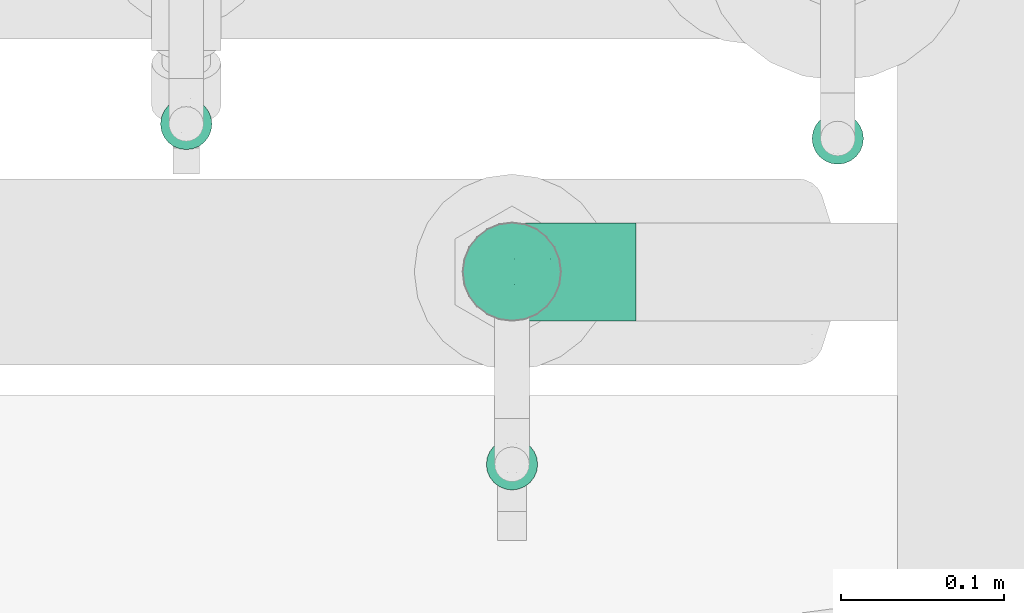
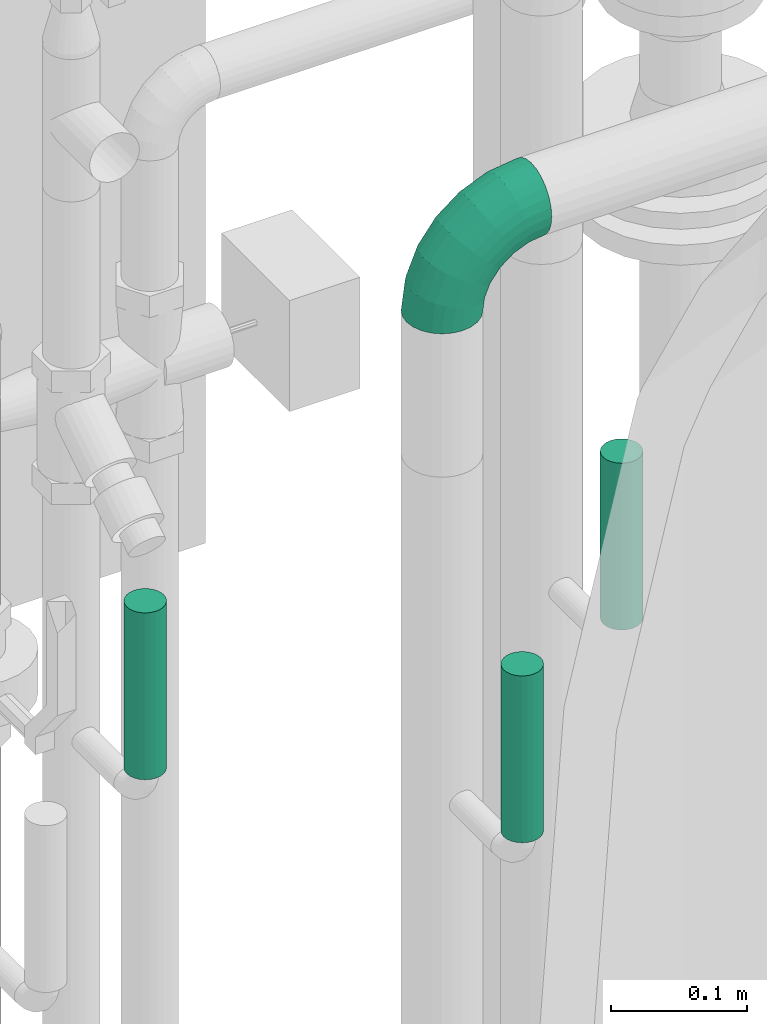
# One storey, part 107 of 374: 3 distribution control elements, 1 flow segment.
"""IFC2X3 building model written with IfcOpenShell, lengths in metres."""

from ifc_helpers import new_model, si_unit, direction, origin, place, context, subcontext, project, spatial, open_shell, surface_model, source, transform, mapped, element, save


model = new_model("IFC2X3")

# Units and contexts
model_context = context("Model", 3, precision=1e-05, world=origin(), true_north=direction((-0.4480736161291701, 0.8939966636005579)))
body_context = subcontext(model_context, "Body", "Model", "MODEL_VIEW")
ifc_project = project(units=[si_unit("LENGTHUNIT", "METRE"), si_unit("AREAUNIT", "SQUARE_METRE"), si_unit("VOLUMEUNIT", "CUBIC_METRE"), si_unit("PLANEANGLEUNIT", "RADIAN"), si_unit("THERMODYNAMICTEMPERATUREUNIT", "KELVIN"), si_unit("MASSUNIT", "GRAM", prefix="KILO"), si_unit("TIMEUNIT", "SECOND")], contexts=[model_context])

# Site, building, storey
site_placement = place(None, origin())
site = spatial("IfcSite", under=ifc_project, at=site_placement, Name="Site 1", CompositionType="ELEMENT")
building_placement = place(site_placement, origin())
building = spatial("IfcBuilding", under=site, at=building_placement, Name="Undefined", CompositionType="ELEMENT")
storey_placement = place(building_placement, origin())
storey = spatial("IfcBuildingStorey", under=building, at=storey_placement, Name="Rez de chauss\x8ee", CompositionType="ELEMENT", Elevation=0.0)

# Flow segment
shared_shape_1 = source(origin(), body_context, "Body", "SurfaceModel", [
    surface_model("IfcFaceBasedSurfaceModel", [(0.027710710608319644, 4.4408921e-16, 0.0), (0.02757661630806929, 0.00786958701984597, 7.105427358e-15), (0.00013409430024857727, 0.00786958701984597, 0.0), (0.0, 0.0, 0.0), (-0.02637334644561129, 0.008788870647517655, -0.0070429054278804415), (-0.026766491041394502, 0.0009282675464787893, -0.007111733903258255), (-0.050139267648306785, 0.010564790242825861, -0.02064875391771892), (-0.050764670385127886, 0.0027215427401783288, -0.02085054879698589), (-0.06954406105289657, 0.013076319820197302, -0.03989032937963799), (-0.07035910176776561, 0.00525761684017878, -0.04028016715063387), (-0.0832653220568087, 0.01615230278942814, -0.06345635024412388), (-0.08421445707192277, 0.00836366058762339, -0.06407649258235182), (-0.09036796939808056, 0.019583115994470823, -0.08974083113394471), (-0.0913865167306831, 0.011828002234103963, -0.09061784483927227), (0.027183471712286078, 0.015466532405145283, -0.0020199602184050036), (0.0005272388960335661, 0.015466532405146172, -0.0020199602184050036), (-0.025220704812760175, 0.016359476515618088, -0.008861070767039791), (-0.048305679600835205, 0.018084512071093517, -0.02207708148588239), (-0.06715448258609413, 0.020524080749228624, -0.04076734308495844), (-0.0804825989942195, 0.023511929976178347, -0.06365814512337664), (-0.08738173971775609, 0.026844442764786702, -0.08918951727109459), (0.026558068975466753, 0.022273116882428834, -0.005922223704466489), (0.001152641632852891, 0.02227311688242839, -0.005922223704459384), (-0.02338711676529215, 0.023124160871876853, -0.012442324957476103), (-0.04538886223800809, 0.02476825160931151, -0.02503819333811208), (-0.06335321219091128, 0.027093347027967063, -0.042851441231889), (-0.07605592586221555, 0.029940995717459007, -0.06466812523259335), (-0.08263133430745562, 0.033117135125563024, -0.08900147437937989), (0.025743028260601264, 0.0278254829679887, -0.011440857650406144), (0.0019676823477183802, 0.027825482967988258, -0.011440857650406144), (-0.020997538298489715, 0.028621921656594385, -0.017542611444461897), (-0.04158759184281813, 0.03016052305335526, -0.029330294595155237), (-0.058399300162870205, 0.0323364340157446, -0.04600059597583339), (-0.07028697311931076, 0.03500136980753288, -0.06641746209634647), (-0.07644048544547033, 0.0379737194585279, -0.08918951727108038), (0.02479389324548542, 0.03174524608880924, -0.01819977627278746), (0.0029168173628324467, 0.03174524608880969, -0.01819977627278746), (-0.018214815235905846, 0.0324780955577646, -0.023814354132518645), (-0.03716091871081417, 0.033893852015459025, -0.034660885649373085), (-0.052630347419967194, 0.03589603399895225, -0.05000019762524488), (-0.06356888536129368, 0.03834819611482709, -0.06878694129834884), (-0.06923108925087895, 0.041083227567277, -0.0897408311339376), (0.023775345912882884, 0.03376528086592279, -0.02573837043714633), (0.003935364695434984, 0.03376528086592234, -0.02573837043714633), (-0.01522858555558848, 0.03442989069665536, -0.03083014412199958), (-0.0324105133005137, 0.03571381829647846, -0.040666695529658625), (-0.046439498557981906, 0.0375295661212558, -0.05457767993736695), (-0.05635948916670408, 0.039753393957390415, -0.07161508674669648), (-0.061494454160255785, 0.04223375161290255, -0.09061784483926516), (0.022756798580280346, 0.03374792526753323, -0.033542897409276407), (0.0049539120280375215, 0.033747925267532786, -0.033542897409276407), (-0.01224235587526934, 0.03434429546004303, -0.03811186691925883), (-0.027660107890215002, 0.035496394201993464, -0.04693843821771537), (-0.040248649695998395, 0.0371257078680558, -0.05942109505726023), (-0.04915009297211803, 0.039121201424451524, -0.07470916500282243), (-0.05375781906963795, 0.041346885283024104, -0.09176079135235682), (0.02180766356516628, 0.03169436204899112, -0.04108149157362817), (0.005903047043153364, 0.031694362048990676, -0.04108149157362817), (-0.00945963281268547, 0.03222714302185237, -0.045163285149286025), (-0.02323343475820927, 0.03325639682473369, -0.05304870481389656), (-0.034479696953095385, 0.034711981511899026, -0.06420037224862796), (-0.04243200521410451, 0.036494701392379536, -0.07785831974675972), (-0.04654842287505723, 0.03848306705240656, -0.09309178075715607), (0.020992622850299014, 0.02774453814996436, -0.0478404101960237), (0.006718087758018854, 0.027744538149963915, -0.0478404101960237), (-0.007070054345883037, 0.02822271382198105, -0.05150385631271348), (-0.019432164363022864, 0.0291464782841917, -0.0585810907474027), (-0.029525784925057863, 0.030452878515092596, -0.06858981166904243), (-0.03666305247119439, 0.032052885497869, -0.08084794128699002), (-0.04035757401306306, 0.03383746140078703, -0.09452010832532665), (0.020367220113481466, 0.022167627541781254, -0.05335904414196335), (0.0073434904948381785, 0.022167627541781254, -0.05335904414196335), (-0.00523646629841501, 0.02260390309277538, -0.05670148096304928), (-0.016515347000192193, 0.023446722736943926, -0.06315857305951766), (-0.025724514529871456, 0.02463864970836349, -0.07229028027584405), (-0.03223637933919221, 0.02609845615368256, -0.0834742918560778), (-0.03560716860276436, 0.027726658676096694, -0.09594843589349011), (0.019974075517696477, 0.01534368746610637, -0.05726130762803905), (0.007736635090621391, 0.01534368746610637, -0.05726130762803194), (-0.004083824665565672, 0.01575362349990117, -0.06040194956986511), (-0.014681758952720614, 0.01654555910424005, -0.06646920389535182), (-0.02333493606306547, 0.01766552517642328, -0.07504959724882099), (-0.029453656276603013, 0.01903719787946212, -0.08555839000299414), (-0.032620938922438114, 0.02056709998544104, -0.09727942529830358), (0.019839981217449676, 0.00773775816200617, -0.05928126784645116), (0.007870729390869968, 0.007737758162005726, -0.05928126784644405), (-0.003690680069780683, 0.008138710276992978, -0.062353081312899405), (-0.014056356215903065, 0.008913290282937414, -0.06828736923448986), (-0.022519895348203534, 0.01000871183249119, -0.07667971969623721), (-0.0285045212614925, 0.011350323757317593, -0.08695820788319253), (-0.03160239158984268, 0.012846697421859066, -0.09842237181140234), (0.019974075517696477, -0.0001318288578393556, -0.05928126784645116), (0.007736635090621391, -0.0001318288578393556, -0.05928126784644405), (-0.004083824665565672, 0.0002781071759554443, -0.06242190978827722), (-0.014681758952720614, 0.001070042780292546, -0.06848916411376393), (-0.02333493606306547, 0.0021900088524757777, -0.0770695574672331), (-0.029453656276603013, 0.0035616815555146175, -0.08757835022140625), (-0.032620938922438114, 0.005091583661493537, -0.09929938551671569), (0.020367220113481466, -0.007728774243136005, -0.057261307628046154), (0.0073434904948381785, -0.007728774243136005, -0.057261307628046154), (-0.00523646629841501, -0.00729249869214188, -0.06060374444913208), (-0.016515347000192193, -0.0064496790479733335, -0.06706083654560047), (-0.025724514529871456, -0.005257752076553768, -0.07619254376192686), (-0.03223637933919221, -0.0037979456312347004, -0.0873765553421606), (-0.03560716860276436, -0.0021697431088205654, -0.09985069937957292), (0.020992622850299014, -0.01453535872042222, -0.053359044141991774), (0.006718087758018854, -0.014535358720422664, -0.053359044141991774), (-0.007070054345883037, -0.01405718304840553, -0.05702249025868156), (-0.019432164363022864, -0.013133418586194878, -0.06409972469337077), (-0.029525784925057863, -0.011827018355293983, -0.07410844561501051), (-0.03666305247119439, -0.01022701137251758, -0.0863665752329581), (-0.04035757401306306, -0.008442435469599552, -0.10003874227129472), (0.02180766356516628, -0.020087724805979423, -0.04784041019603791), (0.005903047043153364, -0.020087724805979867, -0.04784041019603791), (-0.00945963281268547, -0.019554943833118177, -0.05192220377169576), (-0.02323343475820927, -0.018525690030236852, -0.0598076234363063), (-0.034479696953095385, -0.017070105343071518, -0.0709592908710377), (-0.04243200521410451, -0.015287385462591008, -0.08461723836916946), (-0.04654842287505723, -0.013299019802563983, -0.09985069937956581), (0.022756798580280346, -0.024007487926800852, -0.0410814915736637), (0.0049539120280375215, -0.024007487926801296, -0.0410814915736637), (-0.01224235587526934, -0.023411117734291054, -0.04565046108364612), (-0.027660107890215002, -0.022259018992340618, -0.054477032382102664), (-0.040248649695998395, -0.02062970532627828, -0.06695968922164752), (-0.04915009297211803, -0.018634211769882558, -0.08224775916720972), (-0.05375781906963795, -0.016408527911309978, -0.09929938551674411), (0.023775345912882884, -0.026027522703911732, -0.033542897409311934), (0.003935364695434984, -0.026027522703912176, -0.033542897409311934), (-0.01522858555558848, -0.025362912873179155, -0.038634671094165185), (-0.0324105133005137, -0.024078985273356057, -0.04847122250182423), (-0.046439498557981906, -0.02226323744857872, -0.062382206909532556), (-0.05635948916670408, -0.020039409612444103, -0.07941961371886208), (-0.061494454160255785, -0.01755905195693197, -0.09842237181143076), (0.02479389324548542, -0.02601016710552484, -0.02573837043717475), (0.0029168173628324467, -0.026010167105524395, -0.02573837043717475), (-0.018214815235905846, -0.025277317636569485, -0.031352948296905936), (-0.03716091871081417, -0.023861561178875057, -0.04219947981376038), (-0.052630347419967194, -0.021859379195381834, -0.05753879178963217), (-0.06356888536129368, -0.01940721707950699, -0.07632553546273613), (-0.06923108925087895, -0.01667218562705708, -0.0972794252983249), (0.025743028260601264, -0.023956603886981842, -0.018199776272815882), (0.0019676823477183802, -0.023956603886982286, -0.018199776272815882), (-0.020997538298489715, -0.02316016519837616, -0.024301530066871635), (-0.04158759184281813, -0.021621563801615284, -0.036089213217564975), (-0.058399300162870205, -0.019445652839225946, -0.05275951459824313), (-0.07028697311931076, -0.016780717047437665, -0.0731763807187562), (-0.07644048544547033, -0.013808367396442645, -0.09594843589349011), (0.026558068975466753, -0.020006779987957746, -0.011440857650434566), (0.001152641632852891, -0.02000677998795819, -0.01144085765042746), (-0.02338711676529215, -0.019155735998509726, -0.01796095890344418), (-0.04538886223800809, -0.01751164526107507, -0.030556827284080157), (-0.06335321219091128, -0.015186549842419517, -0.048370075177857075), (-0.07605592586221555, -0.012338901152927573, -0.07018675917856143), (-0.08263133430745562, -0.009162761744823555, -0.09452010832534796), (0.027183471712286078, -0.014429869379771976, -0.005922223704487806), (0.0005272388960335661, -0.014429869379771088, -0.005922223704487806), (-0.025220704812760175, -0.013536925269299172, -0.012763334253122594), (-0.048305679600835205, -0.011811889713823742, -0.02597934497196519), (-0.06715448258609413, -0.009372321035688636, -0.04466960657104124), (-0.0804825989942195, -0.006384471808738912, -0.06756040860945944), (-0.08738173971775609, -0.003051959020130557, -0.09309178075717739), (0.02757661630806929, -0.007605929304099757, -0.0020199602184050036), (0.00013409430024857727, -0.007605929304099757, -0.002019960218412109), (-0.02637334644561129, -0.006686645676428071, -0.00906286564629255), (-0.050139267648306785, -0.004910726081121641, -0.02266871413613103), (-0.06954406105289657, -0.0023991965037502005, -0.0419102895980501), (-0.0832653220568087, 0.0006767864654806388, -0.06547631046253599), (-0.09036796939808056, 0.004107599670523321, -0.09176079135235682)], [open_shell([[[0, 1, 2, 3]], [[3, 2, 4, 5]], [[5, 4, 6, 7]], [[7, 6, 8, 9]], [[9, 8, 10, 11]], [[11, 10, 12, 13]], [[1, 14, 15, 2]], [[2, 15, 16, 4]], [[4, 16, 17, 6]], [[6, 17, 18, 8]], [[8, 18, 19, 10]], [[10, 19, 20, 12]], [[14, 21, 22, 15]], [[15, 22, 23, 16]], [[16, 23, 24, 17]], [[17, 24, 25, 18]], [[18, 25, 26, 19]], [[19, 26, 27, 20]], [[21, 28, 29, 22]], [[22, 29, 30, 23]], [[23, 30, 31, 24]], [[24, 31, 32, 25]], [[25, 32, 33, 26]], [[26, 33, 34, 27]], [[28, 35, 36, 29]], [[29, 36, 37, 30]], [[30, 37, 38, 31]], [[31, 38, 39, 32]], [[32, 39, 40, 33]], [[33, 40, 41, 34]], [[35, 42, 43, 36]], [[36, 43, 44, 37]], [[37, 44, 45, 38]], [[38, 45, 46, 39]], [[39, 46, 47, 40]], [[40, 47, 48, 41]], [[42, 49, 50, 43]], [[43, 50, 51, 44]], [[44, 51, 52, 45]], [[45, 52, 53, 46]], [[46, 53, 54, 47]], [[47, 54, 55, 48]], [[49, 56, 57, 50]], [[50, 57, 58, 51]], [[51, 58, 59, 52]], [[52, 59, 60, 53]], [[53, 60, 61, 54]], [[54, 61, 62, 55]], [[56, 63, 64, 57]], [[57, 64, 65, 58]], [[58, 65, 66, 59]], [[59, 66, 67, 60]], [[60, 67, 68, 61]], [[61, 68, 69, 62]], [[63, 70, 71, 64]], [[64, 71, 72, 65]], [[65, 72, 73, 66]], [[66, 73, 74, 67]], [[67, 74, 75, 68]], [[68, 75, 76, 69]], [[70, 77, 78, 71]], [[71, 78, 79, 72]], [[72, 79, 80, 73]], [[73, 80, 81, 74]], [[74, 81, 82, 75]], [[75, 82, 83, 76]], [[77, 84, 85, 78]], [[78, 85, 86, 79]], [[79, 86, 87, 80]], [[80, 87, 88, 81]], [[81, 88, 89, 82]], [[82, 89, 90, 83]], [[84, 91, 92, 85]], [[85, 92, 93, 86]], [[86, 93, 94, 87]], [[87, 94, 95, 88]], [[88, 95, 96, 89]], [[89, 96, 97, 90]], [[91, 98, 99, 92]], [[92, 99, 100, 93]], [[93, 100, 101, 94]], [[94, 101, 102, 95]], [[95, 102, 103, 96]], [[96, 103, 104, 97]], [[98, 105, 106, 99]], [[99, 106, 107, 100]], [[100, 107, 108, 101]], [[101, 108, 109, 102]], [[102, 109, 110, 103]], [[103, 110, 111, 104]], [[105, 112, 113, 106]], [[106, 113, 114, 107]], [[107, 114, 115, 108]], [[108, 115, 116, 109]], [[109, 116, 117, 110]], [[110, 117, 118, 111]], [[112, 119, 120, 113]], [[113, 120, 121, 114]], [[114, 121, 122, 115]], [[115, 122, 123, 116]], [[116, 123, 124, 117]], [[117, 124, 125, 118]], [[119, 126, 127, 120]], [[120, 127, 128, 121]], [[121, 128, 129, 122]], [[122, 129, 130, 123]], [[123, 130, 131, 124]], [[124, 131, 132, 125]], [[126, 133, 134, 127]], [[127, 134, 135, 128]], [[128, 135, 136, 129]], [[129, 136, 137, 130]], [[130, 137, 138, 131]], [[131, 138, 139, 132]], [[133, 140, 141, 134]], [[134, 141, 142, 135]], [[135, 142, 143, 136]], [[136, 143, 144, 137]], [[137, 144, 145, 138]], [[138, 145, 146, 139]], [[140, 147, 148, 141]], [[141, 148, 149, 142]], [[142, 149, 150, 143]], [[143, 150, 151, 144]], [[144, 151, 152, 145]], [[145, 152, 153, 146]], [[147, 154, 155, 148]], [[148, 155, 156, 149]], [[149, 156, 157, 150]], [[150, 157, 158, 151]], [[151, 158, 159, 152]], [[152, 159, 160, 153]], [[154, 161, 162, 155]], [[155, 162, 163, 156]], [[156, 163, 164, 157]], [[157, 164, 165, 158]], [[158, 165, 166, 159]], [[159, 166, 167, 160]], [[161, 0, 3, 162]], [[162, 3, 5, 163]], [[163, 5, 7, 164]], [[164, 7, 9, 165]], [[165, 9, 11, 166]], [[166, 11, 13, 167]]])]),
])
flow_segment_placement = place(storey_placement, origin())
element("IfcFlowSegment", 1, at=flow_segment_placement, inside=storey, Name="Tube coudé", ObjectType="Tube coudé", context=body_context, shape_type="MappedRepresentation", body=[
    mapped(shared_shape_1, transform((54.0310289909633, 10.718037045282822, 1.916732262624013), x_axis=(-0.13052619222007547, 0.0, -0.9914448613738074), y_axis=(0.12832103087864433, -0.9915887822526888, -0.016893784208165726), z_axis=(-0.9831056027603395, -0.12942830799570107, 0.1294283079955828))),
])

# Distribution control elements
shared_shape_2 = source(origin(), body_context, "Body", "SurfaceModel", [
    surface_model("IfcFaceBasedSurfaceModel", [(0.0, 0.004111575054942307, -1.33226763e-15), (0.0, 0.0, 0.0), (0.1499999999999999, 7.105427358e-15, -4.4408921e-16), (0.1499999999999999, 0.004111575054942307, -1.33226763e-15), (0.0, -0.003971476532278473, -0.0010641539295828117), (0.1499999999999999, -0.003971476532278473, -0.0010641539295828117), (0.0, -0.007532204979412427, -0.003119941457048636), (0.1499999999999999, -0.007532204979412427, -0.003119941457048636), (0.0, -0.01043952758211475, -0.006027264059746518), (0.1499999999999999, -0.01043952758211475, -0.006027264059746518), (0.0, -0.01249531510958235, -0.009587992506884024), (0.1499999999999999, -0.01249531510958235, -0.009587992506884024), (0.0, -0.013559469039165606, -0.013559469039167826), (0.1499999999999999, -0.013559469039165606, -0.013559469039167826), (0.0, -0.013559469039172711, -0.017671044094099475), (0.1499999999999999, -0.013559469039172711, -0.017671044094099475), (0.0, -0.01249531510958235, -0.021642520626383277), (0.1499999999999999, -0.01249531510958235, -0.021642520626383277), (0.0, -0.010439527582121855, -0.025203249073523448), (0.1499999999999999, -0.010439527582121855, -0.025203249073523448), (0.0, -0.007532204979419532, -0.028110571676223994), (0.1499999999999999, -0.007532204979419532, -0.028110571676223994), (0.0, -0.003971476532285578, -0.030166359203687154), (0.1499999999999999, -0.003971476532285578, -0.030166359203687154), (0.0, 7.105427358e-15, -0.031230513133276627), (0.1499999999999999, 7.105427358e-15, -0.031230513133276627), (0.0, 0.004111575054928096, -0.031230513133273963), (0.1499999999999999, 0.004111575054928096, -0.031230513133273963), (0.0, 0.00808305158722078, -0.03016635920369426), (0.1499999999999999, 0.00808305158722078, -0.03016635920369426), (0.0, 0.011643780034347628, -0.028110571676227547), (0.1499999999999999, 0.011643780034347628, -0.028110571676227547), (0.0, 0.014551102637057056, -0.02520324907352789), (0.1499999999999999, 0.014551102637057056, -0.02520324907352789), (0.0, 0.01660689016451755, -0.02164252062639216), (0.1499999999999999, 0.01660689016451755, -0.02164252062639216), (0.0, 0.017671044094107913, -0.01767104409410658), (0.1499999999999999, 0.017671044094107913, -0.01767104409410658), (0.0, 0.017671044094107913, -0.013559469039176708), (0.1499999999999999, 0.017671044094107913, -0.013559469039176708), (0.0, 0.016606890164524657, -0.00958799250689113), (0.1499999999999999, 0.016606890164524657, -0.00958799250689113), (0.0, 0.014551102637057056, -0.006027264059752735), (0.1499999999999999, 0.014551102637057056, -0.006027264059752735), (0.0, 0.01164378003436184, -0.003119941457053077), (0.1499999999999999, 0.01164378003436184, -0.003119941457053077), (0.0, 0.00808305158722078, -0.0010641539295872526), (0.1499999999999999, 0.00808305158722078, -0.0010641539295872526), (0.0, 0.002055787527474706, -0.015615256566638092), (0.1499999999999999, 0.002055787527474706, -0.015615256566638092)], [open_shell([[[0, 1, 2, 3]], [[1, 4, 5, 2]], [[4, 6, 7, 5]], [[6, 8, 9, 7]], [[8, 10, 11, 9]], [[10, 12, 13, 11]], [[12, 14, 15, 13]], [[14, 16, 17, 15]], [[16, 18, 19, 17]], [[18, 20, 21, 19]], [[20, 22, 23, 21]], [[22, 24, 25, 23]], [[24, 26, 27, 25]], [[26, 28, 29, 27]], [[28, 30, 31, 29]], [[30, 32, 33, 31]], [[32, 34, 35, 33]], [[34, 36, 37, 35]], [[36, 38, 39, 37]], [[38, 40, 41, 39]], [[40, 42, 43, 41]], [[42, 44, 45, 43]], [[44, 46, 47, 45]], [[46, 0, 3, 47]], [[48, 1, 0]], [[48, 4, 1]], [[48, 6, 4]], [[48, 8, 6]], [[48, 10, 8]], [[48, 12, 10]], [[48, 14, 12]], [[48, 16, 14]], [[48, 18, 16]], [[48, 20, 18]], [[48, 22, 20]], [[48, 24, 22]], [[48, 26, 24]], [[48, 28, 26]], [[48, 30, 28]], [[48, 32, 30]], [[48, 34, 32]], [[48, 36, 34]], [[48, 38, 36]], [[48, 40, 38]], [[48, 42, 40]], [[48, 44, 42]], [[48, 46, 44]], [[48, 0, 46]], [[49, 47, 3]], [[49, 45, 47]], [[49, 43, 45]], [[49, 41, 43]], [[49, 39, 41]], [[49, 37, 39]], [[49, 35, 37]], [[49, 33, 35]], [[49, 31, 33]], [[49, 29, 31]], [[49, 27, 29]], [[49, 25, 27]], [[49, 23, 25]], [[49, 21, 23]], [[49, 19, 21]], [[49, 17, 19]], [[49, 15, 17]], [[49, 13, 15]], [[49, 11, 13]], [[49, 9, 11]], [[49, 7, 9]], [[49, 5, 7]], [[49, 2, 5]], [[49, 3, 2]]])]),
])
distribution_control_element_1_placement = place(storey_placement, origin())
element("IfcDistributionControlElement", 2, at=distribution_control_element_1_placement, inside=storey, Name="Thermomètre droit", ObjectType="Thermomètre droit", context=body_context, shape_type="MappedRepresentation", body=[
    mapped(shared_shape_2, transform((54.05348561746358, 10.615100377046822, 1.4932197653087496), x_axis=(0.0, 0.0, 1.0), y_axis=(0.9914448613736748, 0.13052619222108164, 0.0), z_axis=(-0.13052619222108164, 0.9914448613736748, 0.0))),
])
distribution_control_element_2_placement = place(storey_placement, origin())
element("IfcDistributionControlElement", 3, at=distribution_control_element_2_placement, inside=storey, Name="Thermomètre droit", ObjectType="Thermomètre droit", context=body_context, shape_type="MappedRepresentation", body=[
    mapped(shared_shape_2, transform((53.85348561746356, 10.824050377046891, 1.4932197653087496), x_axis=(0.0, 0.0, 1.0), y_axis=(0.9914448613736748, 0.13052619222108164, 0.0), z_axis=(-0.13052619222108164, 0.9914448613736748, 0.0))),
])
distribution_control_element_3_placement = place(storey_placement, origin())
element("IfcDistributionControlElement", 4, at=distribution_control_element_3_placement, inside=storey, Name="Thermomètre droit", ObjectType="Thermomètre droit", context=body_context, shape_type="MappedRepresentation", body=[
    mapped(shared_shape_2, transform((54.25348561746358, 10.815100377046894, 1.4932197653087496), x_axis=(0.0, 0.0, 1.0), y_axis=(0.9914448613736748, 0.13052619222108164, 0.0), z_axis=(-0.13052619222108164, 0.9914448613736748, 0.0))),
])

save(model, "model.ifc")
